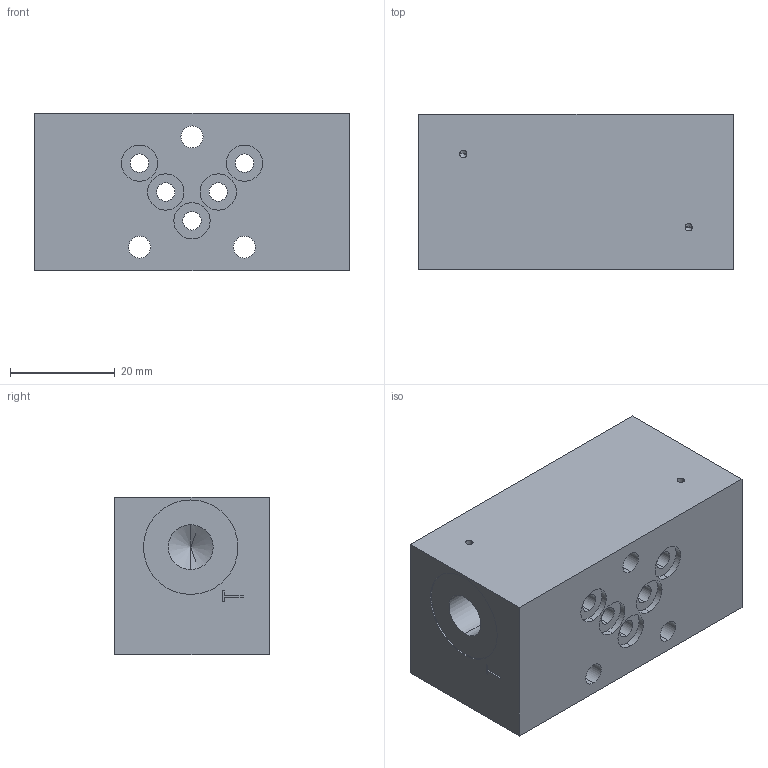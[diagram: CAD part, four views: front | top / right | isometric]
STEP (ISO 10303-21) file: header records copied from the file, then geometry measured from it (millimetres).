
FILE_DESCRIPTION (( 'STEP AP214' ), '1' );
FILE_NAME ('PGSA03-PT.STEP', '2017-03-20T06:08:14', ( '' ), ( '' ), 'SwSTEP 2.0', 'SolidWorks 2016', '' );
FILE_SCHEMA (( 'AUTOMOTIVE_DESIGN' ));
Length unit declared in the file: millimetre
Products named in the file (1): PGSA03-PT
Bounding box: 60 x 29.5 x 30 mm (x, y, z)
Volume: 48326.8 mm3; surface area: 12479.2 mm2
Topology: 1 solids, 1 shells, 84 faces, 208 edges, 132 vertices
Faces by surface type: cylinder 38, plane 32, cone 8, bspline 6
Entity records: 2890 total; most frequent: CARTESIAN_POINT 791, DIRECTION 422, ORIENTED_EDGE 400, EDGE_CURVE 200, AXIS2_PLACEMENT_3D 155, VERTEX_POINT 132, EDGE_LOOP 114, VECTOR 112
